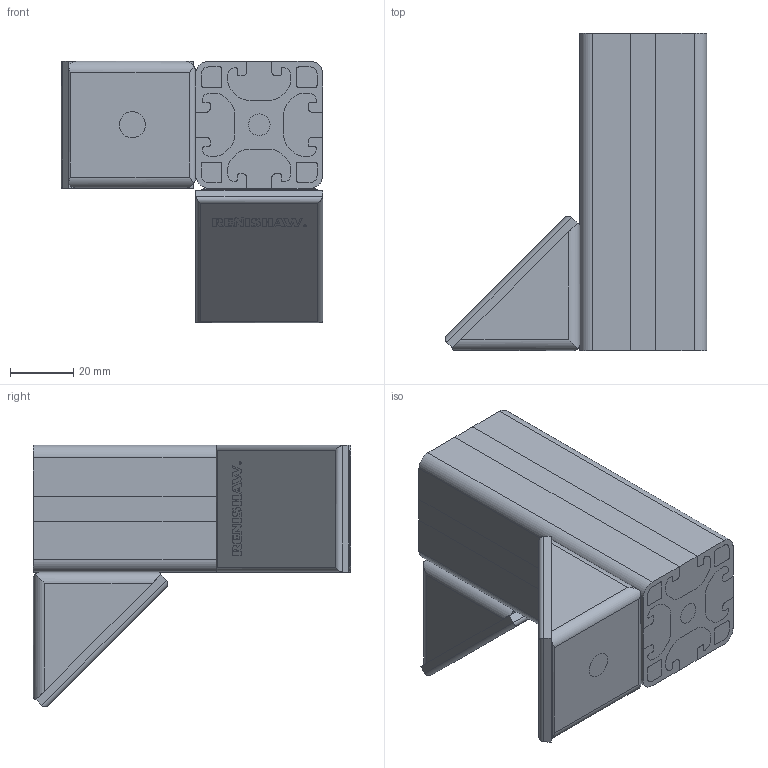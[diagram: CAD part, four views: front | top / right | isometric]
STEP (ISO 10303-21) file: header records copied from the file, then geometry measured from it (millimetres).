
FILE_DESCRIPTION(/* description */ (''),/* implementation_level */ '2;1');
FILE_NAME(/* name */ 'LA-6007-3011-A.stp',/* time_stamp */ '2015-01-28T12:08:23+00:00',/* author */ (''),/* organization */ (''),/* preprocessor_version */ 'ST-DEVELOPER v11',/* originating_system */ 'SIEMENS PLM Software NX 7.5',/* authorisation */ '');
FILE_SCHEMA (('AUTOMOTIVE_DESIGN { 1 0 10303 214 1 1 1 1 }'));
Length unit declared in the file: millimetre
Products named in the file (1): rt13982Avlcd
Bounding box: 82.39 x 100 x 82.39 mm (x, y, z)
Volume: 242522.6 mm3; surface area: 28795.5 mm2
Topology: 1 solids, 1 shells, 120 faces, 616 edges, 536 vertices
Faces by surface type: plane 88, cylinder 26, bspline 6
Entity records: 7940 total; most frequent: CARTESIAN_POINT 2455, ORIENTED_EDGE 1232, DIRECTION 832, EDGE_CURVE 616, VERTEX_POINT 536, AXIS2_PLACEMENT_3D 283, LINE 266, VECTOR 266
